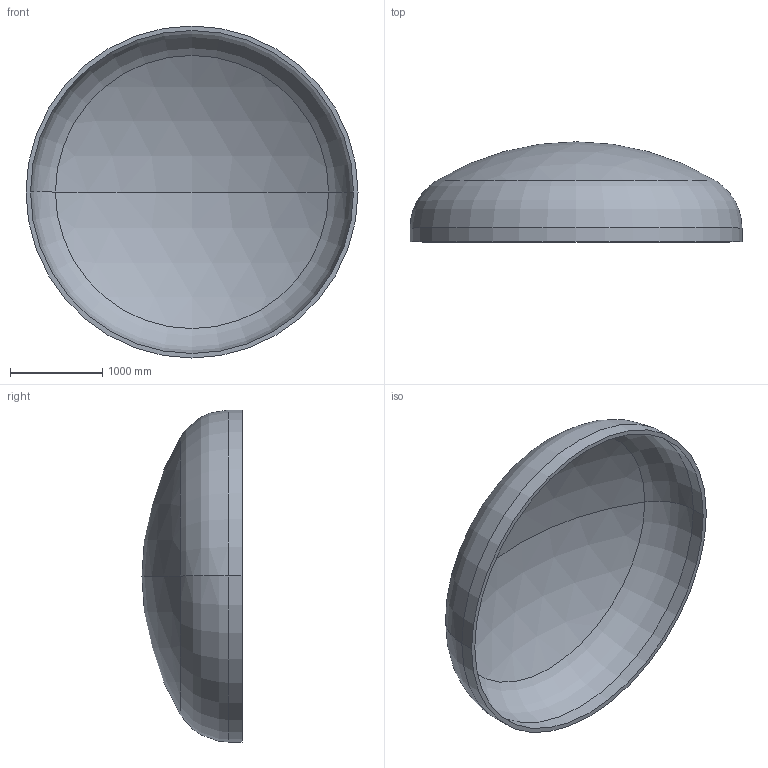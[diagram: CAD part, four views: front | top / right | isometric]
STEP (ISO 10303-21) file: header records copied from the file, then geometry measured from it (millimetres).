
FILE_DESCRIPTION (( 'STEP AP203' ), '1' );
FILE_NAME ('DIN 28013 Korbbogenform_-_Boden DIN 28013 - 3600 x 150 - I - s=49.step', '2016-07-01T20:30:47', ( '' ), ( '' ), 'SwSTEP 2.0', 'SolidWorks 2013', '' );
FILE_SCHEMA (( 'CONFIG_CONTROL_DESIGN' ));
Length unit declared in the file: millimetre
Products named in the file (1): DIN 28013 Korbbogenform_-_Boden DIN 28013 - 3600 x 150 - I - s=49
Bounding box: 3600 x 1085.21 x 3600 mm (x, y, z)
Volume: 760600713.8 mm3; surface area: 31596578.9 mm2
Topology: 1 solids, 1 shells, 13 faces, 24 edges, 14 vertices
Faces by surface type: torus 4, cylinder 4, sphere 4, plane 1
Entity records: 407 total; most frequent: DIRECTION 72, CARTESIAN_POINT 52, ORIENTED_EDGE 48, AXIS2_PLACEMENT_3D 34, EDGE_CURVE 24, CIRCLE 20, VERTEX_POINT 14, EDGE_LOOP 14
